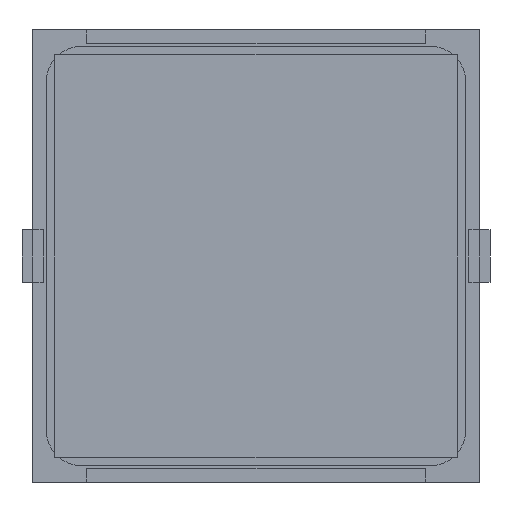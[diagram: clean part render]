
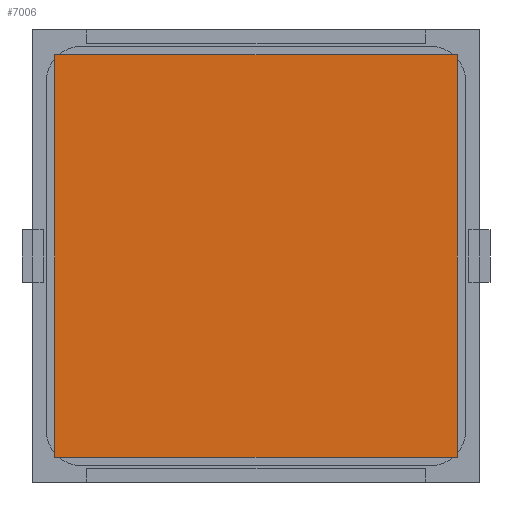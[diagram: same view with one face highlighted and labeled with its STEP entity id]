
A CAD part, front view. The second image highlights one B-rep face of the part: STEP entity #7006.
In plain terms, the highlighted planar face has unit normal (0, -1, 0).
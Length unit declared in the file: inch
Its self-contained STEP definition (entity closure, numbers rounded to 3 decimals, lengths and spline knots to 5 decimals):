
#50 = CARTESIAN_POINT ( 'NONE',  ( 0.74803, -0.005, -0.74803 ) ) ;
#214 = VERTEX_POINT ( 'NONE', #2925 ) ;
#867 = EDGE_CURVE ( 'NONE', #4849, #9796, #11811, .T. ) ;
#1134 = EDGE_CURVE ( 'NONE', #6884, #4849, #9659, .T. ) ;
#1288 = DIRECTION ( 'NONE',  ( 1., 0., 0. ) ) ;
#2117 = ORIENTED_EDGE ( 'NONE', *, *, #5352, .F. ) ;
#2414 = CARTESIAN_POINT ( 'NONE',  ( -0.74803, -0.005, 0.74803 ) ) ;
#2515 = CARTESIAN_POINT ( 'NONE',  ( 0.74803, -0.005, -0.74803 ) ) ;
#2597 = FACE_OUTER_BOUND ( 'NONE', #7755, .T. ) ;
#2925 = CARTESIAN_POINT ( 'NONE',  ( -0.74803, -0.005, 0.74803 ) ) ;
#2981 = CARTESIAN_POINT ( 'NONE',  ( -0.74803, -0.005, -0.74803 ) ) ;
#3104 = LINE ( 'NONE', #11446, #5464 ) ;
#3381 = PLANE ( 'NONE',  #8777 ) ;
#3579 = DIRECTION ( 'NONE',  ( -1., 0., 0. ) ) ;
#4029 = ORIENTED_EDGE ( 'NONE', *, *, #1134, .F. ) ;
#4849 = VERTEX_POINT ( 'NONE', #50 ) ;
#4874 = VECTOR ( 'NONE', #3579, 39.37008 ) ;
#5186 = EDGE_CURVE ( 'NONE', #9796, #214, #10054, .T. ) ;
#5352 = EDGE_CURVE ( 'NONE', #214, #6884, #3104, .T. ) ;
#5464 = VECTOR ( 'NONE', #1288, 39.37008 ) ;
#6884 = VERTEX_POINT ( 'NONE', #8444 ) ;
#7006 = ADVANCED_FACE ( 'NONE', ( #2597 ), #3381, .F. ) ;
#7128 = CARTESIAN_POINT ( 'NONE',  ( -0.74803, -0.005, -0.74803 ) ) ;
#7160 = DIRECTION ( 'NONE',  ( 0., 0., 1. ) ) ;
#7206 = ORIENTED_EDGE ( 'NONE', *, *, #867, .F. ) ;
#7755 = EDGE_LOOP ( 'NONE', ( #12023, #7206, #4029, #2117 ) ) ;
#8444 = CARTESIAN_POINT ( 'NONE',  ( 0.74803, -0.005, 0.74803 ) ) ;
#8777 = AXIS2_PLACEMENT_3D ( 'NONE', #2414, #9993, #9866 ) ;
#9659 = LINE ( 'NONE', #2515, #11109 ) ;
#9796 = VERTEX_POINT ( 'NONE', #2981 ) ;
#9866 = DIRECTION ( 'NONE',  ( 0., 0., 1. ) ) ;
#9983 = CARTESIAN_POINT ( 'NONE',  ( -0.74803, -0.005, -0.74803 ) ) ;
#9993 = DIRECTION ( 'NONE',  ( 0., 1., 0. ) ) ;
#10054 = LINE ( 'NONE', #9983, #10124 ) ;
#10124 = VECTOR ( 'NONE', #7160, 39.37008 ) ;
#11109 = VECTOR ( 'NONE', #11701, 39.37008 ) ;
#11446 = CARTESIAN_POINT ( 'NONE',  ( -0.74803, -0.005, 0.74803 ) ) ;
#11701 = DIRECTION ( 'NONE',  ( 0., 0., -1. ) ) ;
#11811 = LINE ( 'NONE', #7128, #4874 ) ;
#12023 = ORIENTED_EDGE ( 'NONE', *, *, #5186, .F. ) ;
